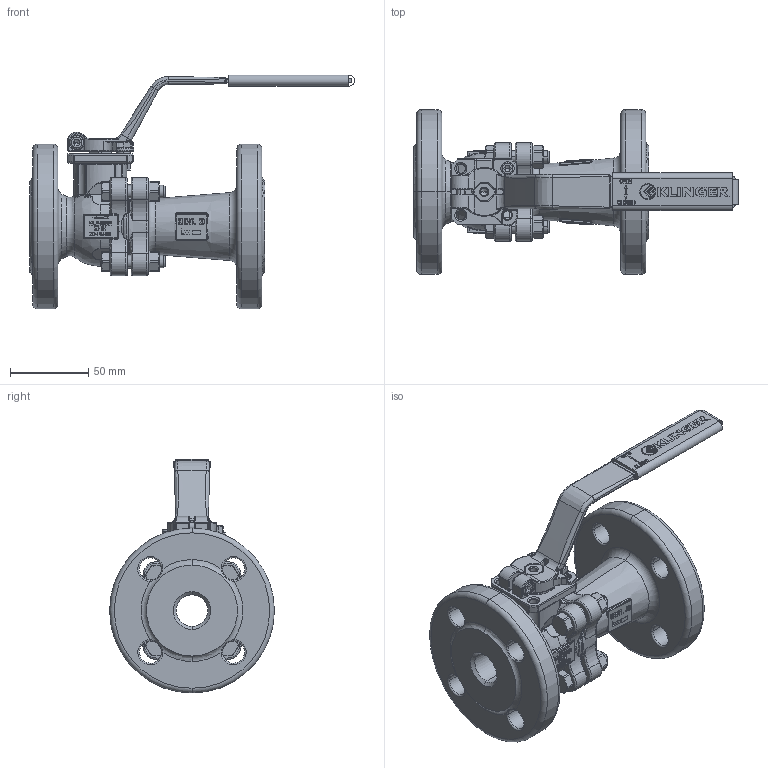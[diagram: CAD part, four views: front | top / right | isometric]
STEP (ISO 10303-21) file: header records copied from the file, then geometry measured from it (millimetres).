
FILE_DESCRIPTION((''),'2;1');
FILE_NAME('KHEFK020VFL020P040PKK','2015-08-10T',('mahrhauserh'),('RAND'),'PRO/ENGINEER BY PARAMETRIC TECHNOLOGY CORPORATION, 2013410','PRO/ENGINEER BY PARAMETRIC TECHNOLOGY CORPORATION, 2013410','');
FILE_SCHEMA(('CONFIG_CONTROL_DESIGN'));
Products named in the file (1): KHEFK020VFL020P040PKK
Bounding box: 207 x 105 x 149.05 mm (x, y, z)
Volume: 468939.9 mm3; surface area: 121021.9 mm2
Topology: 1 solids, 1 shells, 3192 faces, 8267 edges, 5180 vertices
Faces by surface type: plane 1810, cylinder 474, bspline 347, torus 316, cone 207, sphere 38
Entity records: 129205 total; most frequent: CARTESIAN_POINT 53030, ORIENTED_EDGE 16506, DIRECTION 15001, EDGE_CURVE 8253, VECTOR 5257, LINE 5257, VERTEX_POINT 5180, AXIS2_PLACEMENT_3D 4872
